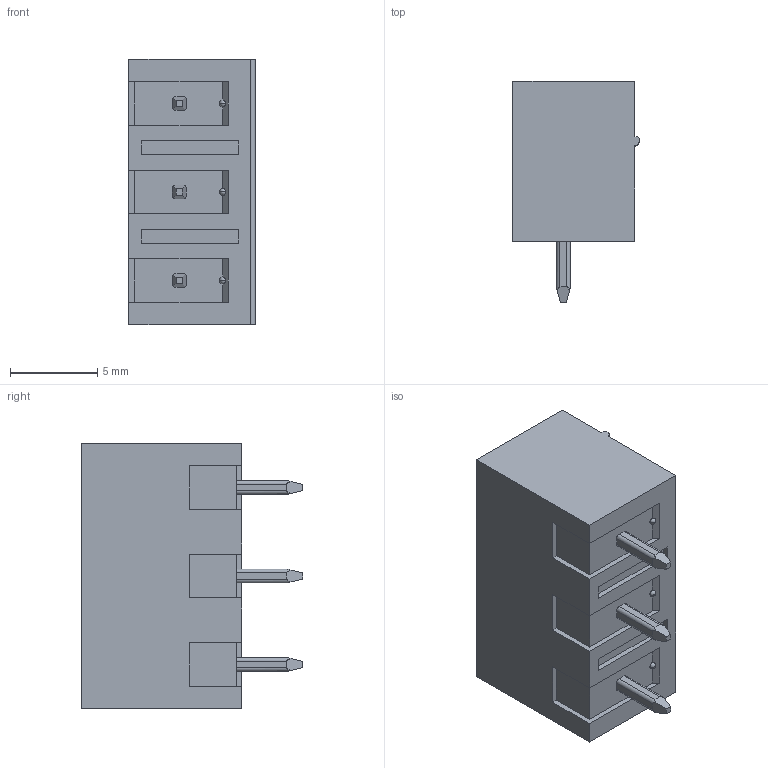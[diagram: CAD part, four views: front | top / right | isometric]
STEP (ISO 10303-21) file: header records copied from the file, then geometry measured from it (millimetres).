
FILE_DESCRIPTION((''),'2;1');
FILE_NAME('3PIN_SW0001','2019-05-14T',('zhenbing.lai'),(''),'CREO PARAMETRIC BY PTC INC, 2016260','CREO PARAMETRIC BY PTC INC, 2016260','');
FILE_SCHEMA(('CONFIG_CONTROL_DESIGN'));
Length unit declared in the file: millimetre
Products named in the file (1): 3PIN_SW0001
Bounding box: 7.25 x 12.7 x 15.24 mm (x, y, z)
Volume: 654.5 mm3; surface area: 1204.6 mm2
Topology: 1 solids, 3 shells, 234 faces, 615 edges, 392 vertices
Faces by surface type: plane 192, cylinder 33, sphere 6, cone 3
Entity records: 7289 total; most frequent: CARTESIAN_POINT 1589, ORIENTED_EDGE 1218, DIRECTION 1079, EDGE_CURVE 609, VECTOR 491, LINE 491, VERTEX_POINT 392, AXIS2_PLACEMENT_3D 294
